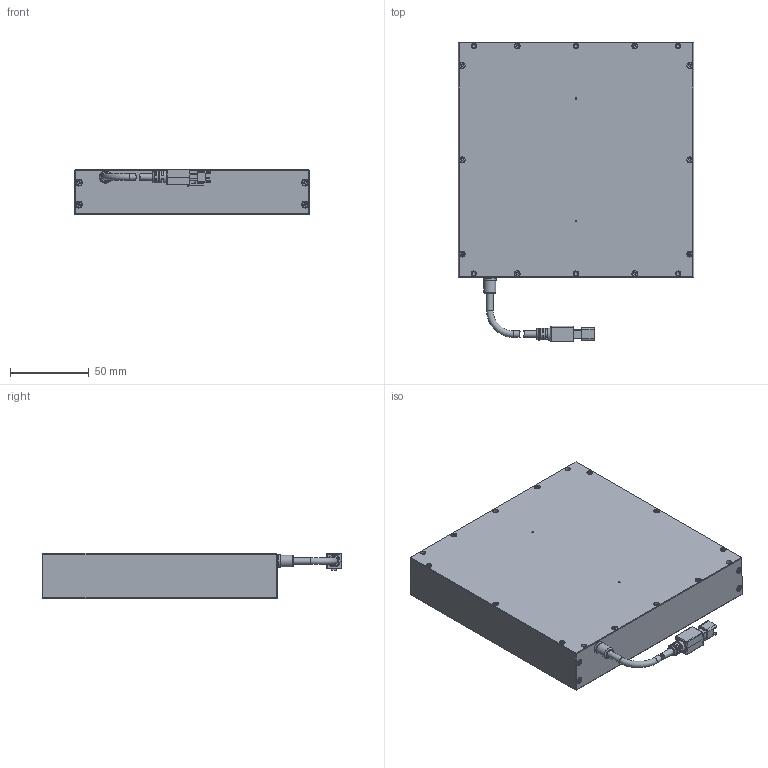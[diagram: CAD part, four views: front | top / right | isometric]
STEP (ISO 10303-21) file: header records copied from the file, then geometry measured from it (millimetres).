
FILE_DESCRIPTION (( 'STEP AP203' ), '1' );
FILE_NAME ('OPT-IFLA150150-IR-V1.0尨砩芞.STEP', '2024-12-17T08:21:40', ( '' ), ( '' ), 'SwSTEP 2.0', 'SolidWorks 2016', '' );
FILE_SCHEMA (( 'CONFIG_CONTROL_DESIGN' ));
Length unit declared in the file: millimetre
Products named in the file (1): OPT-IFLA150150-IR-V1.0尨砩芞
Bounding box: 150 x 191 x 29 mm (x, y, z)
Volume: 631278.5 mm3; surface area: 74624.5 mm2
Topology: 17 solids, 25 shells, 868 faces, 2014 edges, 1243 vertices
Faces by surface type: plane 506, cylinder 253, cone 80, bspline 20, torus 9
Full cylindrical faces by diameter (mm): 1.1 x2, 1.6 x18, 2 x18, 2.4 x18, 2.5 x6, 3.4 x6, 3.5 x1, 3.8 x18, 4.1 x4, 5.8 x1, 7.5 x2, 8 x1
Entity records: 23484 total; most frequent: CARTESIAN_POINT 4728, DIRECTION 3930, ORIENTED_EDGE 3532, EDGE_CURVE 1766, AXIS2_PLACEMENT_3D 1379, VERTEX_POINT 1179, VECTOR 1172, LINE 1172
